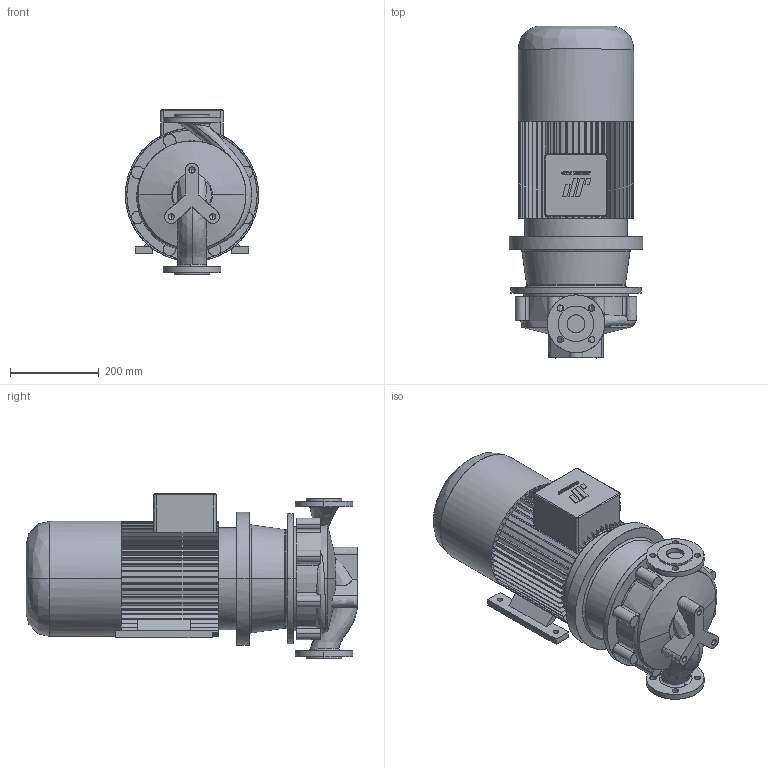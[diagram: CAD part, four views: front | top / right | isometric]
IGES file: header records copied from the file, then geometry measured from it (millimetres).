
Start section: CombiLine
Global section: file name: CLB_40-200_IEC132M.igs; native system:  By UGS Corp.; preprocessor: XPlus GENERIC/IGES 3.0; author: Stageplaats; organization: Johnson Pump Water B.V.; date: 20070712.152848; units: millimetre
Bounding box: 300 x 746.5 x 373 mm (x, y, z)
Surface area: 1243031.5 mm2 (no closed solid volume)
Topology: 0 solids, 0 shells, 582 faces, 3544 edges, 3538 vertices
Faces by surface type: bspline 582
